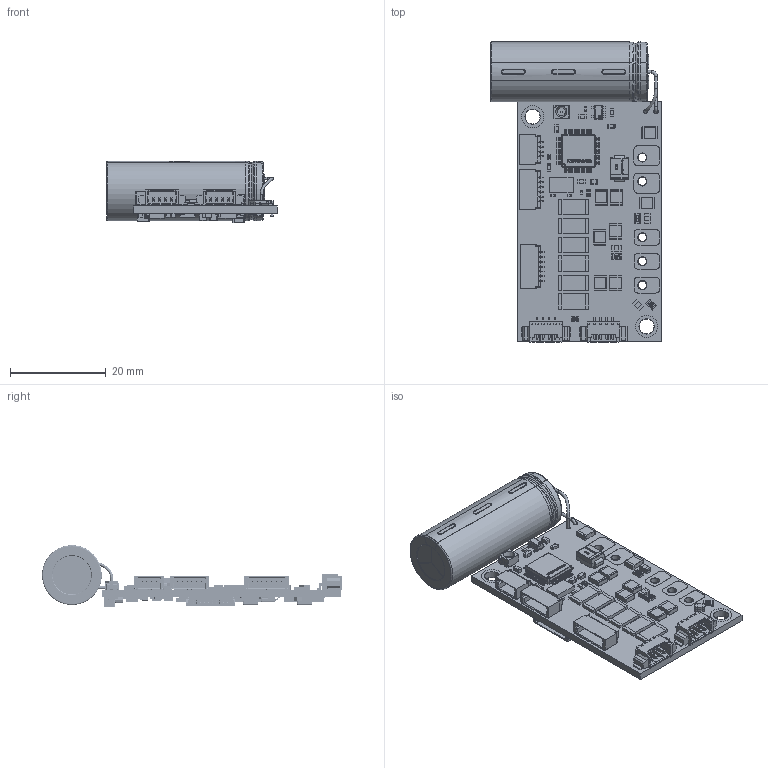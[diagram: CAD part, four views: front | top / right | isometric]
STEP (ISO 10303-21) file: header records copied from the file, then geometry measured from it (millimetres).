
FILE_DESCRIPTION(/* description */ (''),/* implementation_level */ '2;1');
FILE_NAME(/* name */ 'CAN_DRV_1.2.0.step',/* time_stamp */ '2024-01-23T13:51:00+03:00',/* author */ (''),/* organization */ (''),/* preprocessor_version */ 'ST-DEVELOPER v20',/* originating_system */ 'Autodesk Translation Framework v12.14.0.127',/* authorisation */ '');
FILE_SCHEMA (('AUTOMOTIVE_DESIGN { 1 0 10303 214 3 1 1 }'));
Length unit declared in the file: millimetre
Products named in the file (178): CAN_DRV_1.2.0; Board; U10; U9; 6-WSON; BODY-SON; FRAME-DRV0006A; Open CASCADE STEP translator 6.8 1.2.1.3; R49; R48; Resistors_0603; P2; TE_1734709-7; P4; JST_SM10B-SURS-TF; SM04B-SURS-TF; P3; TE_1734709-4; P1; TE-1734709-6; D3; C46; C45; C44; D7; SOD-323_diode_v3; U7; QFN-12_(2.5mmx3mm); R47; R46; R35; R34; R33; R31; R19; CR1005-0402; L2; User_Library-Chip_Inductor; C27; C26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
Assembly tree (301 placements, depth 4):
  CAN_DRV_1.2.0
    Board
    U10
      6-WSON
        BODY-SON
        FRAME-DRV0006A
        Open CASCADE STEP translator 6.8 1.2.1.3
    U9
      6-WSON
        BODY-SON
        FRAME-DRV0006A
        Open CASCADE STEP translator 6.8 1.2.1.3
    R49
      Resistors_0603
    R48
      Resistors_0603
    P2
      TE_1734709-7
    P4
      JST_SM10B-SURS-TF
        SM04B-SURS-TF
    P3
      TE_1734709-4
    P1
      TE-1734709-6
    D3
      6294361792
        Extruded
      6294361600
        Extruded (1)
    C46
      1206_SMD_Capacitor_2
    C45
      1206_SMD_Capacitor_2
    C44
      1206_SMD_Capacitor_2
    D7
      SOD-323_diode_v3
    U7
      QFN-12_(2.5mmx3mm)
    R47
      CR1005-0402
    R46
      CR1005-0402
    R35
      CR1005-0402
    R34
      CR1005-0402
    R33
      CR1005-0402
    R31
      CR1005-0402
    R19
      CR1005-0402
    L2
      User_Library-Chip_Inductor
    C27
      CAPC1608X___
    C26
      CAPC1608X___
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Bounding box: 35.7 x 62.64 x 12.86 mm (x, y, z)
Volume: 7053.3 mm3; surface area: 9571.6 mm2
Topology: 333 solids, 333 shells, 11717 faces, 30817 edges, 19631 vertices
Faces by surface type: plane 6436, cylinder 3079, bspline 1013, sphere 974, torus 196, cone 19
Full cylindrical faces by diameter (mm): 0.15 x2, 0.2 x4, 0.35 x1, 0.6 x7, 0.8 x6, 0.9 x2, 1.7 x5, 1.9 x10, 3.1 x2, 3.2 x4, 4.6 x8, 8.1 x2, 8.248 x2
Entity records: 165937 total; most frequent: CARTESIAN_POINT 41892, ORIENTED_EDGE 24922, DIRECTION 23444, EDGE_CURVE 12461, LINE 8932, VECTOR 8932, VERTEX_POINT 8027, AXIS2_PLACEMENT_3D 7256
